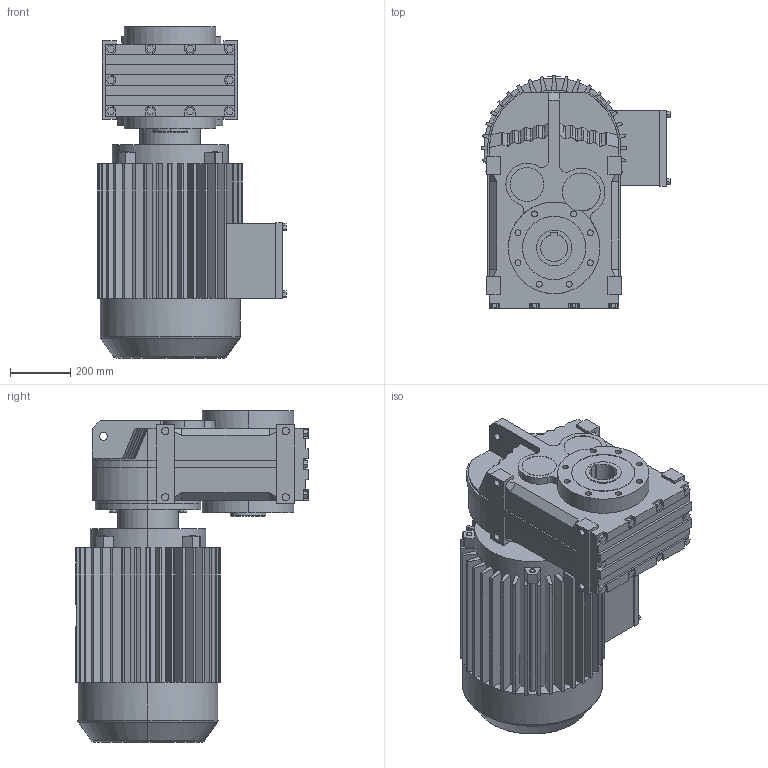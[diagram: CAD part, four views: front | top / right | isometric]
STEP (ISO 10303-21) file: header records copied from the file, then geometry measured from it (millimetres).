
FILE_DESCRIPTION(('Open CASCADE Model'),'2;1');
FILE_NAME('Open CASCADE Shape Model','2018-09-11T15:32:04',('Author'),( 'Open CASCADE'),'Open CASCADE STEP processor 6.3','Open CASCADE 6.3' ,'Unknown');
FILE_SCHEMA(('AUTOMOTIVE_DESIGN_CC2 { 1 2 10303 214 -1 1 5 4 }'));
Length unit declared in the file: millimetre
Products named in the file (4): 7_FA107-Y100M; FA27‵157_107.step; 萇儂_350.step; す瑩諾陑粣F_107.step
Assembly tree (3 placements, depth 2):
  7_FA107-Y100M
    FA27‵157_107.step
    萇儂_350.step
    す瑩諾陑粣F_107.step
Bounding box: 625 x 772.4 x 1102 mm (x, y, z)
Volume: 189569685.9 mm3; surface area: 4665907.2 mm2
Topology: 3 solids, 3 shells, 766 faces, 2011 edges, 1310 vertices
Faces by surface type: plane 554, cylinder 190, bspline 16, torus 4, cone 2
Entity records: 51088 total; most frequent: CARTESIAN_POINT 12435, DIRECTION 6775, ORIENTED_EDGE 4022, PCURVE 4022, DEFINITIONAL_REPRESENTATION 4022, LINE 3833, VECTOR 3833, EDGE_CURVE 2011
